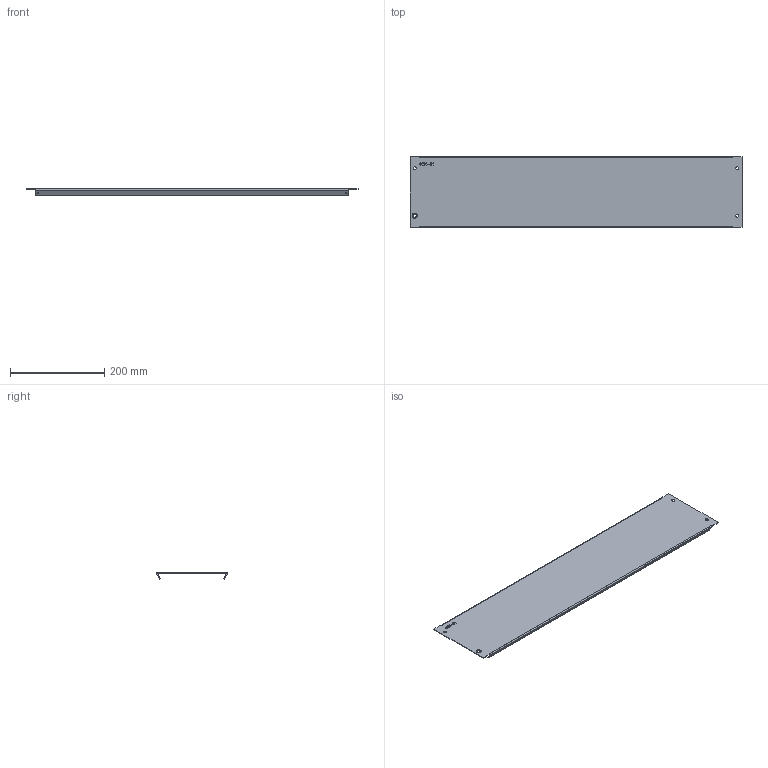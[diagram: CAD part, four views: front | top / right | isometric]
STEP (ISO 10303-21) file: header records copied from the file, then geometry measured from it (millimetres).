
FILE_DESCRIPTION (( 'STEP AP203' ), '1' );
FILE_NAME ('MSMBP1508R5_V1.step', '2015-06-11T11:05:42', ( '' ), ( '' ), 'SwSTEP 2.0', 'SolidWorks 2014', '' );
FILE_SCHEMA (( 'CONFIG_CONTROL_DESIGN' ));
Length unit declared in the file: millimetre
Products named in the file (1): MSMBP1508R5_V1
Bounding box: 703 x 149 x 13.37 mm (x, y, z)
Volume: 152130.9 mm3; surface area: 245807.4 mm2
Topology: 1 solids, 1 shells, 167 faces, 454 edges, 300 vertices
Faces by surface type: plane 81, bspline 64, cylinder 22
Entity records: 5433 total; most frequent: CARTESIAN_POINT 1506, ORIENTED_EDGE 908, DIRECTION 578, EDGE_CURVE 454, VERTEX_POINT 300, VECTOR 282, LINE 282, EDGE_LOOP 194
